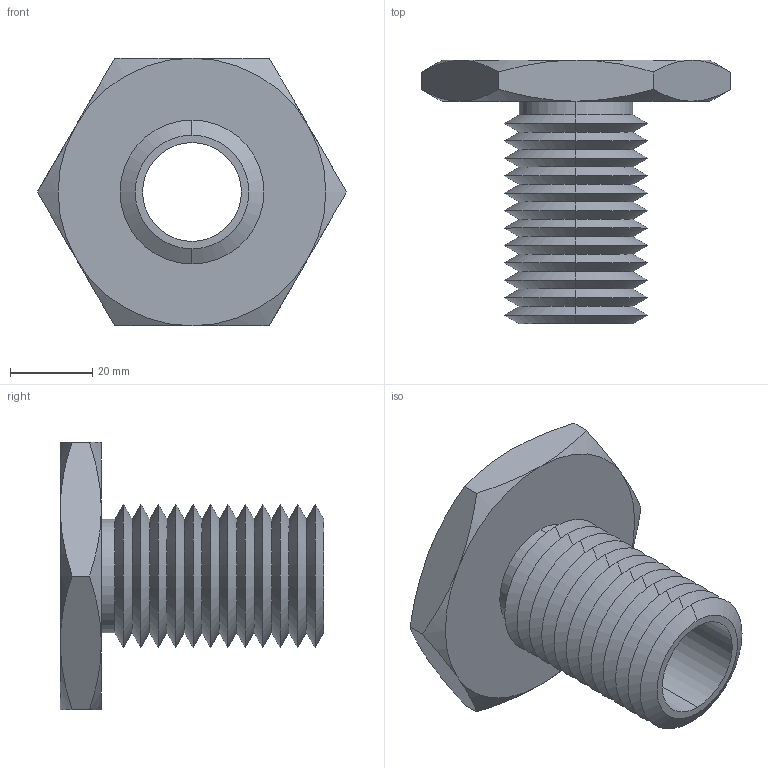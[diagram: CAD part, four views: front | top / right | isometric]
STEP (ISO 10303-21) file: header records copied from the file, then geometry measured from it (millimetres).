
FILE_DESCRIPTION (( 'STEP AP203' ), '1' );
FILE_NAME ('63302.W5138_M24x3.step', '2013-12-08T11:43:00', ( 'User' ), ( '' ), 'SwSTEP 2.0', 'SolidWorks 2009', '' );
FILE_SCHEMA (( 'CONFIG_CONTROL_DESIGN' ));
Length unit declared in the file: millimetre
Products named in the file (1): 63302.W5138_M24x3
Bounding box: 75.06 x 64 x 65 mm (x, y, z)
Volume: 47763.9 mm3; surface area: 23279.5 mm2
Topology: 1 solids, 1 shells, 75 faces, 154 edges, 82 vertices
Faces by surface type: cone 62, plane 9, cylinder 4
Entity records: 2139 total; most frequent: CARTESIAN_POINT 496, DIRECTION 352, ORIENTED_EDGE 308, EDGE_CURVE 154, AXIS2_PLACEMENT_3D 146, VERTEX_POINT 82, EDGE_LOOP 78, ADVANCED_FACE 75
